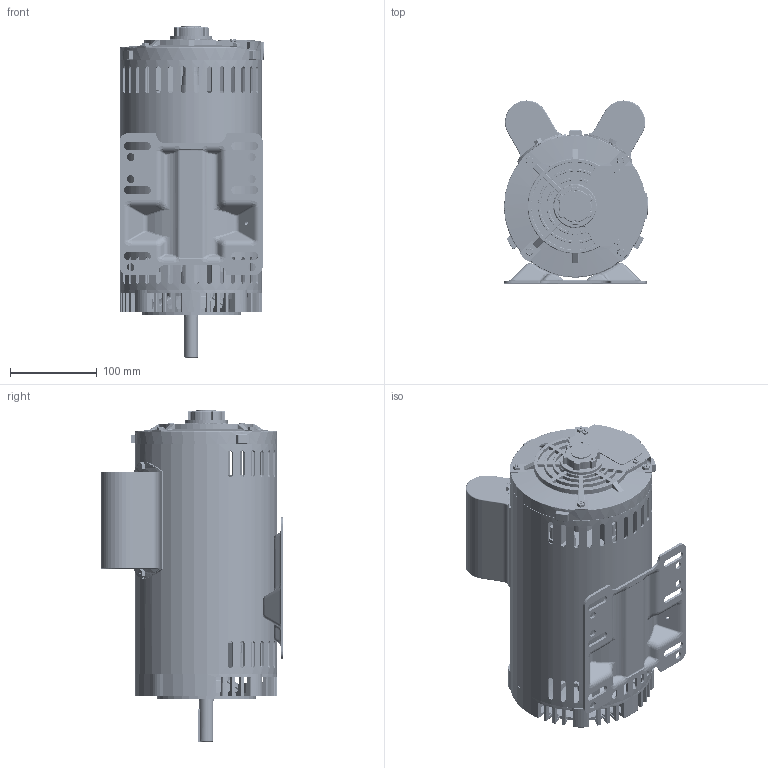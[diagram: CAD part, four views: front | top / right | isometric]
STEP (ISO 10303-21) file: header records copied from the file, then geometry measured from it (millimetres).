
FILE_DESCRIPTION (( 'STEP AP203' ), '1' );
FILE_NAME ('OPE 2-18-56CB.STEP', '2025-03-04T07:38:52', ( 'User' ), ( 'China' ), 'SwSTEP 2.0', 'SolidWorks 2019', '' );
FILE_SCHEMA (( 'CONFIG_CONTROL_DESIGN' ));
Products named in the file (3): d; OPE 2-18-56CB; OPE 2-18-56
Assembly tree (2 placements, depth 2):
  OPE 2-18-56CB
    OPE 2-18-56
    d
Bounding box: 167 x 210.87 x 383.15 mm (x, y, z)
Volume: 2141689.7 mm3; surface area: 776968 mm2
Topology: 26 solids, 29 shells, 4083 faces, 10816 edges, 6735 vertices
Faces by surface type: cylinder 1740, plane 1234, torus 457, bspline 341, cone 207, sphere 104
Entity records: 176840 total; most frequent: CARTESIAN_POINT 80219, ORIENTED_EDGE 21396, DIRECTION 18753, EDGE_CURVE 10698, AXIS2_PLACEMENT_3D 7110, VERTEX_POINT 6728, LINE 4533, VECTOR 4533
